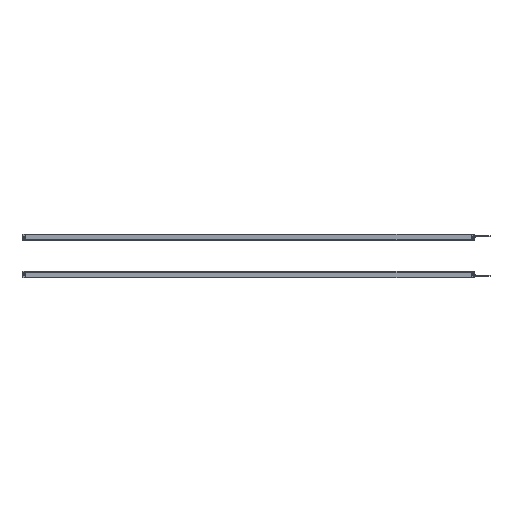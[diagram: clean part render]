
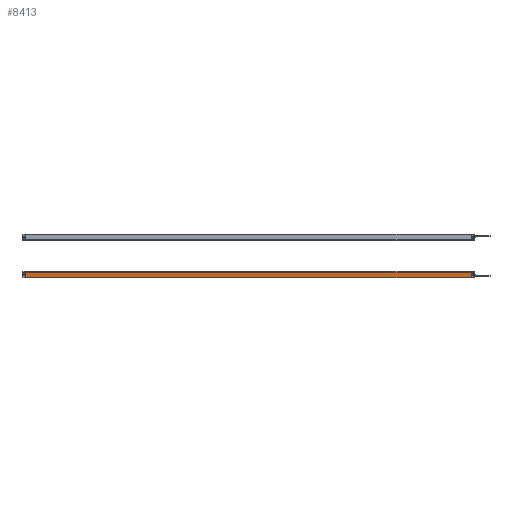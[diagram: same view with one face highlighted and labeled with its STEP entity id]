
A CAD part, left-side view. The second image highlights one B-rep face of the part: STEP entity #8413.
In plain terms, the highlighted planar face has unit normal (-1, 0, 0).
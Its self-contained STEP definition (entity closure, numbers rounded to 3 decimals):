
#249 = CARTESIAN_POINT ( 'NONE',  ( -12.5, -1440., 8.293 ) ) ;
#272 = DIRECTION ( 'NONE',  ( 0., 0., 1. ) ) ;
#612 = EDGE_CURVE ( 'NONE', #10414, #3096, #7846, .T. ) ;
#775 = CARTESIAN_POINT ( 'NONE',  ( -12.5, -1440., -9.2 ) ) ;
#814 = VECTOR ( 'NONE', #3361, 1000. ) ;
#828 = FACE_OUTER_BOUND ( 'NONE', #4765, .T. ) ;
#867 = DIRECTION ( 'NONE',  ( 0., 1., 0. ) ) ;
#1014 = ORIENTED_EDGE ( 'NONE', *, *, #1038, .F. ) ;
#1038 = EDGE_CURVE ( 'NONE', #10414, #7311, #10451, .T. ) ;
#1052 = CARTESIAN_POINT ( 'NONE',  ( -12.5, 0., -9.2 ) ) ;
#1158 = ORIENTED_EDGE ( 'NONE', *, *, #4930, .F. ) ;
#2682 = CARTESIAN_POINT ( 'NONE',  ( -12.5, -1440., 8.293 ) ) ;
#3096 = VERTEX_POINT ( 'NONE', #2682 ) ;
#3341 = CARTESIAN_POINT ( 'NONE',  ( -12.5, -1440., -9.2 ) ) ;
#3361 = DIRECTION ( 'NONE',  ( 0., 0., 1. ) ) ;
#3421 = CARTESIAN_POINT ( 'NONE',  ( -12.5, 0., 8.293 ) ) ;
#3970 = CARTESIAN_POINT ( 'NONE',  ( -12.5, 0., -9.2 ) ) ;
#4765 = EDGE_LOOP ( 'NONE', ( #1158, #1014, #6388, #8704 ) ) ;
#4930 = EDGE_CURVE ( 'NONE', #7311, #6651, #10417, .T. ) ;
#5671 = EDGE_CURVE ( 'NONE', #3096, #6651, #5803, .T. ) ;
#5803 = LINE ( 'NONE', #249, #10015 ) ;
#5935 = VECTOR ( 'NONE', #10514, 1000. ) ;
#6156 = DIRECTION ( 'NONE',  ( 0., 1., 0. ) ) ;
#6388 = ORIENTED_EDGE ( 'NONE', *, *, #612, .T. ) ;
#6441 = CARTESIAN_POINT ( 'NONE',  ( -12.5, -1440., -9.2 ) ) ;
#6495 = VECTOR ( 'NONE', #867, 1000. ) ;
#6567 = PLANE ( 'NONE',  #10340 ) ;
#6651 = VERTEX_POINT ( 'NONE', #3421 ) ;
#7263 = CARTESIAN_POINT ( 'NONE',  ( -12.5, -1440., -9.2 ) ) ;
#7311 = VERTEX_POINT ( 'NONE', #3970 ) ;
#7846 = LINE ( 'NONE', #775, #814 ) ;
#8413 = ADVANCED_FACE ( 'NONE', ( #828 ), #6567, .T. ) ;
#8704 = ORIENTED_EDGE ( 'NONE', *, *, #5671, .T. ) ;
#8837 = DIRECTION ( 'NONE',  ( -1., 0., 0. ) ) ;
#10015 = VECTOR ( 'NONE', #6156, 1000. ) ;
#10340 = AXIS2_PLACEMENT_3D ( 'NONE', #7263, #8837, #272 ) ;
#10414 = VERTEX_POINT ( 'NONE', #6441 ) ;
#10417 = LINE ( 'NONE', #1052, #5935 ) ;
#10451 = LINE ( 'NONE', #3341, #6495 ) ;
#10514 = DIRECTION ( 'NONE',  ( 0., 0., 1. ) ) ;
